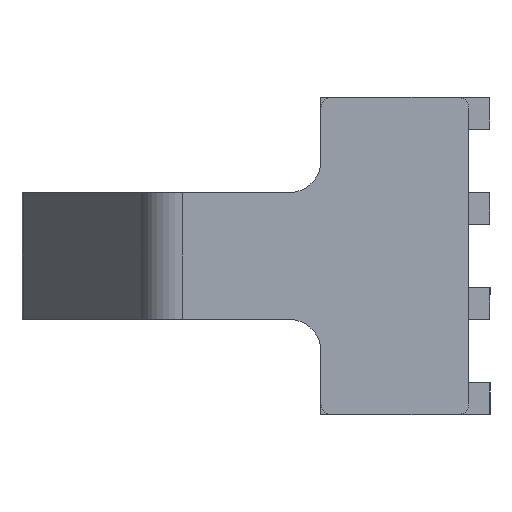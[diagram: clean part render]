
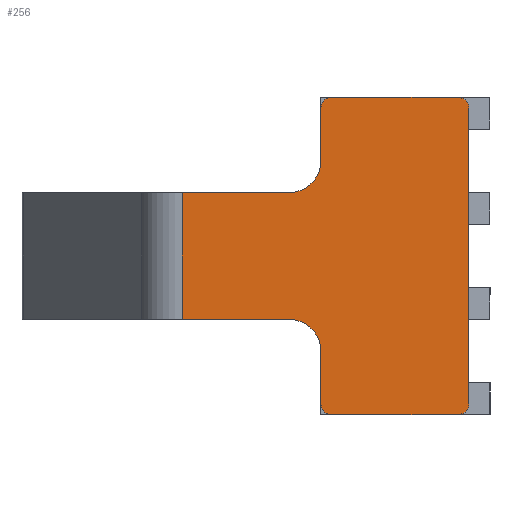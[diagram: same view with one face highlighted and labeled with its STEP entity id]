
A CAD part, left-side view. The second image highlights one B-rep face of the part: STEP entity #256.
In plain terms, the highlighted planar face has unit normal (-1, 0, 0).
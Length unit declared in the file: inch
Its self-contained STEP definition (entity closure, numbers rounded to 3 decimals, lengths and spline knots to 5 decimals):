
#24 = AXIS2_PLACEMENT_3D ( 'NONE', #646, #232, #1675 ) ;
#72 = LINE ( 'NONE', #341, #804 ) ;
#129 = CARTESIAN_POINT ( 'NONE',  ( -2.50625, 1.0625, -0.375 ) ) ;
#147 = VECTOR ( 'NONE', #1877, 39.37008 ) ;
#173 = DIRECTION ( 'NONE',  ( -1., 0., 0. ) ) ;
#185 = ORIENTED_EDGE ( 'NONE', *, *, #240, .F. ) ;
#232 = DIRECTION ( 'NONE',  ( -1., 0., 0. ) ) ;
#240 = EDGE_CURVE ( 'NONE', #2105, #1094, #614, .T. ) ;
#256 = ADVANCED_FACE ( 'NONE', ( #2692 ), #1072, .T. ) ;
#269 = ORIENTED_EDGE ( 'NONE', *, *, #1116, .T. ) ;
#292 = CIRCLE ( 'NONE', #2480, 0.0625 ) ;
#307 = EDGE_CURVE ( 'NONE', #486, #684, #1632, .T. ) ;
#341 = CARTESIAN_POINT ( 'NONE',  ( -2.50625, 0., 0.9375 ) ) ;
#377 = LINE ( 'NONE', #2572, #898 ) ;
#430 = DIRECTION ( 'NONE',  ( -1., 0., 0. ) ) ;
#461 = ORIENTED_EDGE ( 'NONE', *, *, #2088, .T. ) ;
#486 = VERTEX_POINT ( 'NONE', #129 ) ;
#491 = ORIENTED_EDGE ( 'NONE', *, *, #857, .T. ) ;
#500 = VECTOR ( 'NONE', #2036, 39.37008 ) ;
#510 = VECTOR ( 'NONE', #2681, 39.37008 ) ;
#513 = VECTOR ( 'NONE', #1319, 39.37008 ) ;
#523 = CARTESIAN_POINT ( 'NONE',  ( -2.50625, 1.69561, -0.375 ) ) ;
#525 = AXIS2_PLACEMENT_3D ( 'NONE', #2629, #1782, #2604 ) ;
#580 = VERTEX_POINT ( 'NONE', #1560 ) ;
#582 = CARTESIAN_POINT ( 'NONE',  ( -2.50625, 0., -0.875 ) ) ;
#594 = CARTESIAN_POINT ( 'NONE',  ( -2.50625, 0.275, -0.375 ) ) ;
#614 = LINE ( 'NONE', #1469, #147 ) ;
#645 = EDGE_CURVE ( 'NONE', #2100, #906, #292, .T. ) ;
#646 = CARTESIAN_POINT ( 'NONE',  ( -2.50625, 0.275, 0.375 ) ) ;
#654 = CARTESIAN_POINT ( 'NONE',  ( -2.50625, 1.69561, 0.375 ) ) ;
#684 = VERTEX_POINT ( 'NONE', #2481 ) ;
#748 = ORIENTED_EDGE ( 'NONE', *, *, #307, .T. ) ;
#762 = EDGE_CURVE ( 'NONE', #906, #2069, #1952, .T. ) ;
#767 = CARTESIAN_POINT ( 'NONE',  ( -2.50625, 0.8125, 0.875 ) ) ;
#802 = EDGE_CURVE ( 'NONE', #2517, #1094, #2648, .T. ) ;
#804 = VECTOR ( 'NONE', #989, 39.37008 ) ;
#828 = CIRCLE ( 'NONE', #525, 0.1875 ) ;
#852 = CARTESIAN_POINT ( 'NONE',  ( -2.50625, 0.8125, -0.9375 ) ) ;
#857 = EDGE_CURVE ( 'NONE', #2067, #1002, #1032, .T. ) ;
#862 = CARTESIAN_POINT ( 'NONE',  ( -2.50625, 0.875, 0.5625 ) ) ;
#868 = LINE ( 'NONE', #1580, #2294 ) ;
#879 = ORIENTED_EDGE ( 'NONE', *, *, #2576, .F. ) ;
#898 = VECTOR ( 'NONE', #1716, 39.37008 ) ;
#906 = VERTEX_POINT ( 'NONE', #1755 ) ;
#926 = EDGE_CURVE ( 'NONE', #2105, #2108, #1068, .T. ) ;
#964 = CIRCLE ( 'NONE', #2093, 0.0625 ) ;
#979 = ORIENTED_EDGE ( 'NONE', *, *, #802, .T. ) ;
#989 = DIRECTION ( 'NONE',  ( 0., 1., 0. ) ) ;
#1002 = VERTEX_POINT ( 'NONE', #523 ) ;
#1020 = EDGE_CURVE ( 'NONE', #2462, #684, #868, .T. ) ;
#1032 = LINE ( 'NONE', #2160, #513 ) ;
#1068 = CIRCLE ( 'NONE', #2468, 0.0625 ) ;
#1072 = PLANE ( 'NONE',  #24 ) ;
#1081 = DIRECTION ( 'NONE',  ( 0., 0., 1. ) ) ;
#1094 = VERTEX_POINT ( 'NONE', #582 ) ;
#1107 = ORIENTED_EDGE ( 'NONE', *, *, #645, .T. ) ;
#1116 = EDGE_CURVE ( 'NONE', #2108, #2100, #72, .T. ) ;
#1169 = AXIS2_PLACEMENT_3D ( 'NONE', #1518, #1327, #1081 ) ;
#1184 = DIRECTION ( 'NONE',  ( 0., 0., 1. ) ) ;
#1317 = CARTESIAN_POINT ( 'NONE',  ( -2.50625, 0., 0.875 ) ) ;
#1319 = DIRECTION ( 'NONE',  ( 0., 0., -1. ) ) ;
#1327 = DIRECTION ( 'NONE',  ( 1., 0., 0. ) ) ;
#1357 = LINE ( 'NONE', #1380, #500 ) ;
#1366 = EDGE_CURVE ( 'NONE', #2462, #2304, #964, .T. ) ;
#1380 = CARTESIAN_POINT ( 'NONE',  ( -2.50625, 0., -0.9375 ) ) ;
#1399 = DIRECTION ( 'NONE',  ( 0., 0., 1. ) ) ;
#1405 = CARTESIAN_POINT ( 'NONE',  ( -2.50625, 0.8125, -0.875 ) ) ;
#1418 = EDGE_CURVE ( 'NONE', #486, #1002, #2321, .T. ) ;
#1469 = CARTESIAN_POINT ( 'NONE',  ( -2.50625, 0., 0.375 ) ) ;
#1480 = DIRECTION ( 'NONE',  ( -1., 0., 0. ) ) ;
#1511 = CARTESIAN_POINT ( 'NONE',  ( -2.50625, 0.0625, 0.9375 ) ) ;
#1518 = CARTESIAN_POINT ( 'NONE',  ( -2.50625, 1.0625, -0.5625 ) ) ;
#1545 = CARTESIAN_POINT ( 'NONE',  ( -2.50625, 0.0625, -0.9375 ) ) ;
#1560 = CARTESIAN_POINT ( 'NONE',  ( -2.50625, 1.0625, 0.375 ) ) ;
#1576 = DIRECTION ( 'NONE',  ( 0., 0., 1. ) ) ;
#1580 = CARTESIAN_POINT ( 'NONE',  ( -2.50625, 0.875, -0.9375 ) ) ;
#1632 = CIRCLE ( 'NONE', #1169, 0.1875 ) ;
#1675 = DIRECTION ( 'NONE',  ( 0., 0., 1. ) ) ;
#1712 = ORIENTED_EDGE ( 'NONE', *, *, #1418, .F. ) ;
#1716 = DIRECTION ( 'NONE',  ( 0., 1., 0. ) ) ;
#1739 = ORIENTED_EDGE ( 'NONE', *, *, #762, .T. ) ;
#1755 = CARTESIAN_POINT ( 'NONE',  ( -2.50625, 0.875, 0.875 ) ) ;
#1782 = DIRECTION ( 'NONE',  ( 1., 0., 0. ) ) ;
#1795 = CARTESIAN_POINT ( 'NONE',  ( -2.50625, 0.875, -0.875 ) ) ;
#1811 = AXIS2_PLACEMENT_3D ( 'NONE', #2176, #1480, #2390 ) ;
#1877 = DIRECTION ( 'NONE',  ( 0., 0., -1. ) ) ;
#1948 = CARTESIAN_POINT ( 'NONE',  ( -2.50625, 0.0625, 0.875 ) ) ;
#1952 = LINE ( 'NONE', #2053, #2426 ) ;
#1987 = ORIENTED_EDGE ( 'NONE', *, *, #1366, .T. ) ;
#2013 = EDGE_CURVE ( 'NONE', #580, #2067, #377, .T. ) ;
#2026 = ORIENTED_EDGE ( 'NONE', *, *, #1020, .F. ) ;
#2036 = DIRECTION ( 'NONE',  ( 0., 1., 0. ) ) ;
#2053 = CARTESIAN_POINT ( 'NONE',  ( -2.50625, 0.875, 0.9375 ) ) ;
#2064 = DIRECTION ( 'NONE',  ( 0., 0., -1. ) ) ;
#2067 = VERTEX_POINT ( 'NONE', #654 ) ;
#2069 = VERTEX_POINT ( 'NONE', #862 ) ;
#2086 = ORIENTED_EDGE ( 'NONE', *, *, #2013, .T. ) ;
#2088 = EDGE_CURVE ( 'NONE', #2069, #580, #828, .T. ) ;
#2093 = AXIS2_PLACEMENT_3D ( 'NONE', #1405, #173, #1184 ) ;
#2100 = VERTEX_POINT ( 'NONE', #2560 ) ;
#2105 = VERTEX_POINT ( 'NONE', #1317 ) ;
#2108 = VERTEX_POINT ( 'NONE', #1511 ) ;
#2160 = CARTESIAN_POINT ( 'NONE',  ( -2.50625, 1.69561, 0.375 ) ) ;
#2176 = CARTESIAN_POINT ( 'NONE',  ( -2.50625, 0.0625, -0.875 ) ) ;
#2251 = DIRECTION ( 'NONE',  ( -1., 0., 0. ) ) ;
#2263 = ORIENTED_EDGE ( 'NONE', *, *, #926, .T. ) ;
#2294 = VECTOR ( 'NONE', #1576, 39.37008 ) ;
#2304 = VERTEX_POINT ( 'NONE', #852 ) ;
#2321 = LINE ( 'NONE', #594, #510 ) ;
#2390 = DIRECTION ( 'NONE',  ( 0., 0., 1. ) ) ;
#2426 = VECTOR ( 'NONE', #2064, 39.37008 ) ;
#2462 = VERTEX_POINT ( 'NONE', #1795 ) ;
#2468 = AXIS2_PLACEMENT_3D ( 'NONE', #1948, #430, #2528 ) ;
#2480 = AXIS2_PLACEMENT_3D ( 'NONE', #767, #2251, #1399 ) ;
#2481 = CARTESIAN_POINT ( 'NONE',  ( -2.50625, 0.875, -0.5625 ) ) ;
#2517 = VERTEX_POINT ( 'NONE', #1545 ) ;
#2528 = DIRECTION ( 'NONE',  ( 0., 0., 1. ) ) ;
#2529 = EDGE_LOOP ( 'NONE', ( #269, #1107, #1739, #461, #2086, #491, #1712, #748, #2026, #1987, #879, #979, #185, #2263 ) ) ;
#2560 = CARTESIAN_POINT ( 'NONE',  ( -2.50625, 0.8125, 0.9375 ) ) ;
#2572 = CARTESIAN_POINT ( 'NONE',  ( -2.50625, 0.275, 0.375 ) ) ;
#2576 = EDGE_CURVE ( 'NONE', #2517, #2304, #1357, .T. ) ;
#2604 = DIRECTION ( 'NONE',  ( 0., 0., 1. ) ) ;
#2629 = CARTESIAN_POINT ( 'NONE',  ( -2.50625, 1.0625, 0.5625 ) ) ;
#2648 = CIRCLE ( 'NONE', #1811, 0.0625 ) ;
#2681 = DIRECTION ( 'NONE',  ( 0., 1., 0. ) ) ;
#2692 = FACE_OUTER_BOUND ( 'NONE', #2529, .T. ) ;
